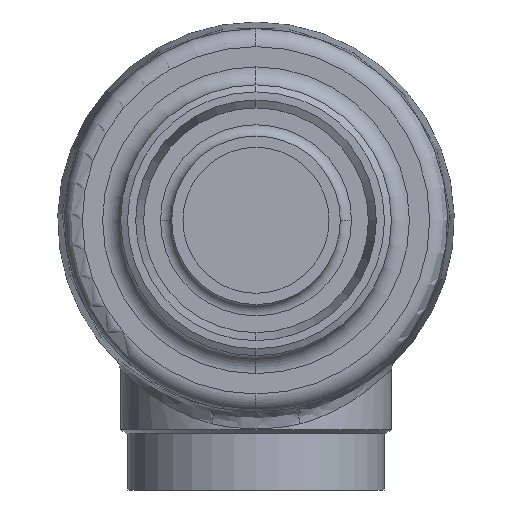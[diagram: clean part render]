
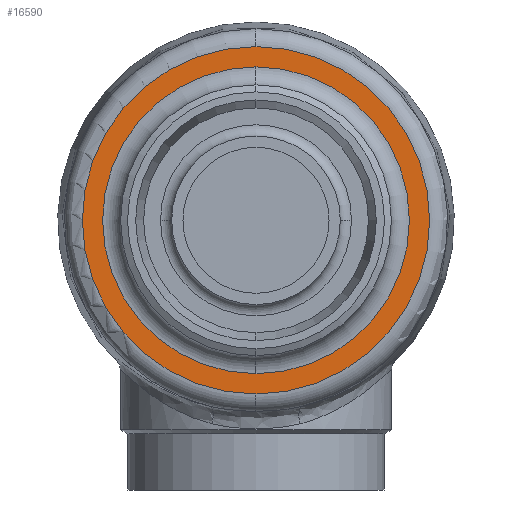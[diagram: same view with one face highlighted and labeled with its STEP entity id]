
A CAD part, front view. The second image highlights one B-rep face of the part: STEP entity #16590.
In plain terms, the highlighted planar face has unit normal (0, -1, 0).
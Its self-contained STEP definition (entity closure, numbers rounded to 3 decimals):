
#16393 = EDGE_LOOP ( 'NONE', ( #511, #10169 ) ) ;
#16590 = ADVANCED_FACE ( 'NONE', ( #7593, #7594 ), #7595, .T. ) ;
#511 = ORIENTED_EDGE ( 'NONE', *, *, #13236, .T. ) ;
#16910 = EDGE_CURVE ( 'NONE', #13183, #8782, #7905, .T. ) ;
#5783 = VERTEX_POINT ( 'NONE', #12497 ) ;
#7593 = FACE_BOUND ( 'NONE', #16393, .T. ) ;
#7594 = FACE_OUTER_BOUND ( 'NONE', #9761, .T. ) ;
#7595 = PLANE ( 'NONE',  #7596 ) ;
#7596 = AXIS2_PLACEMENT_3D ( 'NONE', #7597, #7598, #7599 ) ;
#7597 = CARTESIAN_POINT ( 'NONE',  ( 0., -145., 0. ) ) ;
#7598 = DIRECTION ( 'NONE',  ( 0., -1., 0. ) ) ;
#7599 = DIRECTION ( 'NONE',  ( 0., 0., -1. ) ) ;
#7905 = CIRCLE ( 'NONE', #7906, 77.274 ) ;
#7906 = AXIS2_PLACEMENT_3D ( 'NONE', #7907, #7912, #7913 ) ;
#7907 = CARTESIAN_POINT ( 'NONE',  ( 0., -145., 0. ) ) ;
#7912 = DIRECTION ( 'NONE',  ( 0., -1., 0. ) ) ;
#7913 = DIRECTION ( 'NONE',  ( 0., 0., -1. ) ) ;
#8782 = VERTEX_POINT ( 'NONE', #9973 ) ;
#8996 = EDGE_CURVE ( 'NONE', #8782, #13183, #11746, .T. ) ;
#9761 = EDGE_LOOP ( 'NONE', ( #11808, #11089 ) ) ;
#9889 = EDGE_CURVE ( 'NONE', #5783, #13222, #16205, .T. ) ;
#9973 = CARTESIAN_POINT ( 'NONE',  ( 0., -145., -77.274 ) ) ;
#10063 = CARTESIAN_POINT ( 'NONE',  ( 0., -145., 77.274 ) ) ;
#10169 = ORIENTED_EDGE ( 'NONE', *, *, #9889, .T. ) ;
#11089 = ORIENTED_EDGE ( 'NONE', *, *, #16910, .T. ) ;
#11746 = CIRCLE ( 'NONE', #11747, 77.274 ) ;
#11747 = AXIS2_PLACEMENT_3D ( 'NONE', #11748, #11749, #11750 ) ;
#11748 = CARTESIAN_POINT ( 'NONE',  ( 0., -145., 0. ) ) ;
#11749 = DIRECTION ( 'NONE',  ( 0., -1., 0. ) ) ;
#11750 = DIRECTION ( 'NONE',  ( 0., 0., -1. ) ) ;
#11808 = ORIENTED_EDGE ( 'NONE', *, *, #8996, .T. ) ;
#11901 = CARTESIAN_POINT ( 'NONE',  ( 0., -145., -68.25 ) ) ;
#11927 = CIRCLE ( 'NONE', #11928, 68.25 ) ;
#11928 = AXIS2_PLACEMENT_3D ( 'NONE', #11929, #11930, #11932 ) ;
#11929 = CARTESIAN_POINT ( 'NONE',  ( 0., -145., 0. ) ) ;
#11930 = DIRECTION ( 'NONE',  ( 0., 1., 0. ) ) ;
#11932 = DIRECTION ( 'NONE',  ( 0., 0., -1. ) ) ;
#12497 = CARTESIAN_POINT ( 'NONE',  ( 0., -145., 68.25 ) ) ;
#13183 = VERTEX_POINT ( 'NONE', #10063 ) ;
#13222 = VERTEX_POINT ( 'NONE', #11901 ) ;
#13236 = EDGE_CURVE ( 'NONE', #13222, #5783, #11927, .T. ) ;
#16205 = CIRCLE ( 'NONE', #16206, 68.25 ) ;
#16206 = AXIS2_PLACEMENT_3D ( 'NONE', #16207, #16208, #16209 ) ;
#16207 = CARTESIAN_POINT ( 'NONE',  ( 0., -145., 0. ) ) ;
#16208 = DIRECTION ( 'NONE',  ( 0., 1., 0. ) ) ;
#16209 = DIRECTION ( 'NONE',  ( 0., 0., -1. ) ) ;
